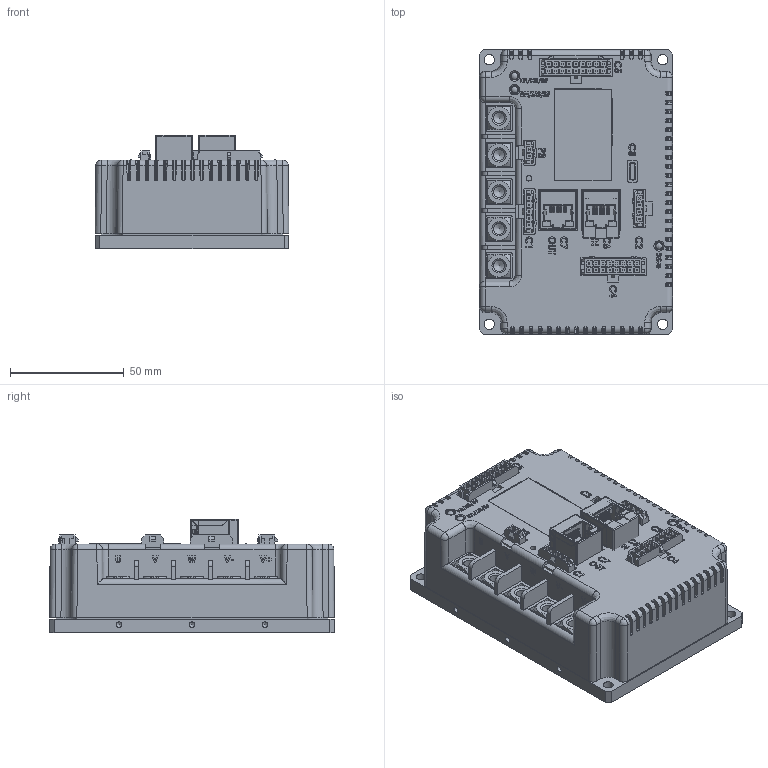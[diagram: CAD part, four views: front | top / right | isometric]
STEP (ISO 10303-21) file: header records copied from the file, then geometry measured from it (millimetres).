
FILE_DESCRIPTION(/* description */ ('','CAx-IF Rec.Pracs.---Representation and Presentation of Product Manufacturing Information (PMI)---4.0---2014-10-13'),/* implementation_level */ '2;1');
FILE_NAME(/* name */ 'ZED_65_stp v2.step',/* time_stamp */ '2025-01-14T16:51:17+01:00',/* author */ (''),/* organization */ (''),/* preprocessor_version */ 'ST-DEVELOPER v20',/* originating_system */ 'Autodesk Translation Framework v13.20.0.188',/* authorisation */ '');
FILE_SCHEMA (('AP242_MANAGED_MODEL_BASED_3D_ENGINEERING_MIM_LF { 1 0 10303 442 1 1 4 }'));
Products named in the file (1): ZED_65_stp
Bounding box: 85 x 125 x 49.8 mm (x, y, z)
Volume: 367677.1 mm3; surface area: 117922.5 mm2
Topology: 3 solids, 39 shells, 4541 faces, 12690 edges, 8351 vertices
Faces by surface type: plane 3373, cylinder 773, bspline 248, cone 112, sphere 23, torus 12
Full cylindrical faces by diameter (mm): 0.042 x4, 0.054 x4, 0.15 x5, 0.2 x1, 0.4 x1, 2.013 x4, 2.394 x3, 2.4 x1, 2.5 x7, 2.92 x3, 3.5 x4, 3.667 x8, 3.8 x3, 3.86 x4, 4.01 x8, 4.5 x4, 4.7 x4, 4.917 x5, 5 x1, 5.5 x1
Entity records: 158675 total; most frequent: CARTESIAN_POINT 40843, ORIENTED_EDGE 25328, DIRECTION 22523, EDGE_CURVE 12664, LINE 10001, VECTOR 10001, VERTEX_POINT 8351, AXIS2_PLACEMENT_3D 6261
